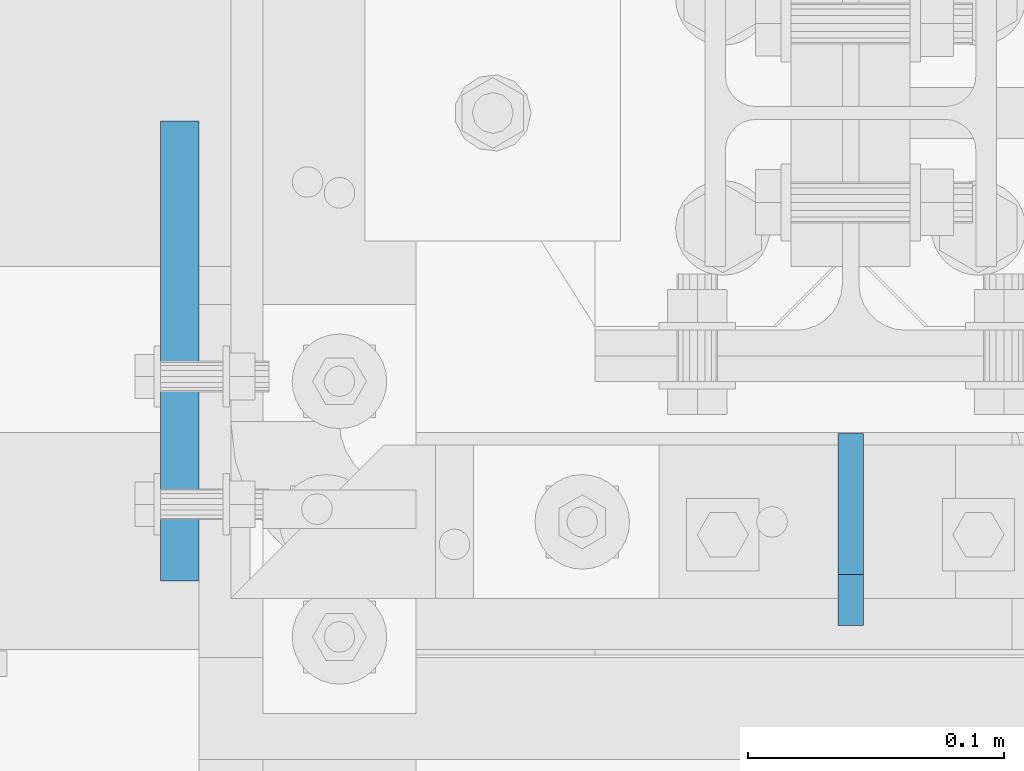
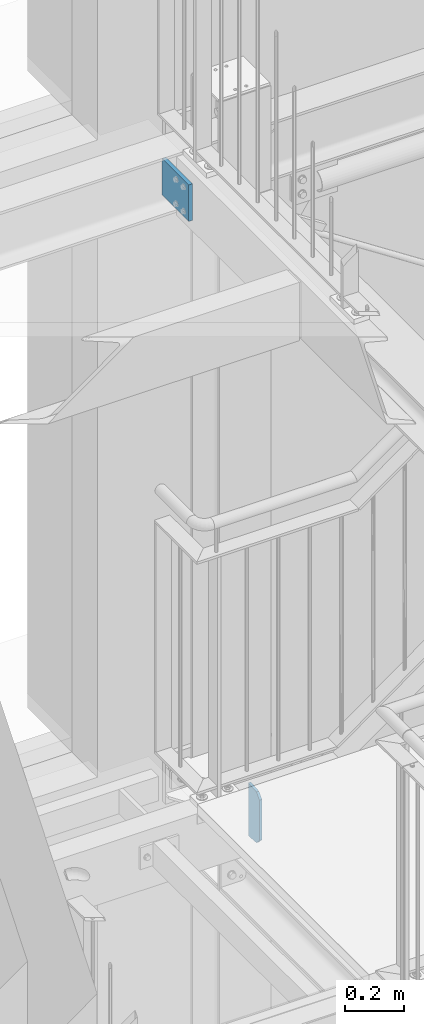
# One storey, part 188 of 821: 2 plates, 6 openings.
"""IFC2X3 building model written with IfcOpenShell, lengths in millimetres."""

from ifc_helpers import new_model, entity, si_unit, converted_unit, frame, frame_2d, origin, origin_with_axes, place, context, project, spatial, polyline, circle, outline, extrude, material, layer, layer_set, element, save


model = new_model("IFC2X3")

# Units and contexts
model_context = context("Model", 3, precision=1e-09, world=origin_with_axes())
ifc_project = project(units=[si_unit("LENGTHUNIT", "METRE", prefix="MILLI"), si_unit("AREAUNIT", "SQUARE_METRE"), si_unit("VOLUMEUNIT", "CUBIC_METRE"), converted_unit("PLANEANGLEUNIT", "DEGREE", entity("IfcPlaneAngleMeasure", 0.01745329), si_unit("PLANEANGLEUNIT", "RADIAN"), dimensions=[0, 0, 0, 0, 0, 0, 0])], contexts=[model_context])

# Site, building, storey
site_placement = place(None, origin_with_axes())
site = spatial("IfcSite", under=ifc_project, at=site_placement, Name="Cnopf'sche Kinderklinik", CompositionType="ELEMENT")
building_placement = place(site_placement, origin_with_axes())
building = spatial("IfcBuilding", under=site, at=building_placement, Name="Struktur 1", CompositionType="ELEMENT")
storey_placement = place(building_placement, origin_with_axes())
storey = spatial("IfcBuildingStorey", under=building, at=storey_placement, Name="Default Storey", CompositionType="ELEMENT", Elevation=0.0)

# Plate, openings
ifc_material = material(Name="S235JR")
ifc_layer_1 = layer(ifc_material, 10.0)
ifc_layer_set_1 = layer_set([ifc_layer_1], Name="S235JR")
plate_1_placement = place(None, frame((4861.713402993, 7316.236971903, 15196.855161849), z_axis=(-1.0, 0.0, 0.0), x_axis=(0.0, 0.996815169, 0.079746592)))
plate_1 = element("IfcPlate", 1, at=plate_1_placement, inside=storey, material=ifc_layer_set_1, Name="Stiffener#1", ObjectType="Stiffener#1", context=model_context, shape_type="SweptSolid", body=[
    extrude(outline(polyline([(0.0, 0.0), (75.239625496, 0.0), (57.877952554, 217.017159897), (-16.404697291, 205.05517107), (0.0, 0.0)])), origin_with_axes(), (0.0, 0.0, 1.0), 10.0),
])
opening_1_placement = place(plate_1_placement, frame((0.0, 0.0, -0.01), z_axis=(0.0, 0.0, 1.0), x_axis=(1.0, 0.0, 0.0)))
element("IfcOpeningElement", 2, at=opening_1_placement, cuts=plate_1, ObjectType="Opening", context=model_context, shape_type="SweptSolid", body=[
    extrude(outline(polyline([(-16.404697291, 205.05517107), (-14.809765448, 185.118867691), (3.34092195, 208.23487558), (-16.404697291, 205.05517107)])), origin(), (0.0, 0.0, 1.0), 10.02),
])
opening_2_placement = place(plate_1_placement, frame((0.0, 0.0, -0.01), z_axis=(0.0, 0.0, 1.0), x_axis=(1.0, 0.0, 0.0)))
element("IfcOpeningElement", 3, at=opening_2_placement, cuts=plate_1, ObjectType="Opening", context=model_context, shape_type="SweptSolid", body=[
    extrude(outline(polyline([(0.0, 0.0), (20.0, 0.0), (-1.594931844, 19.936303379), (0.0, 0.0)])), origin(), (0.0, 0.0, 1.0), 10.02),
])

ifc_layer_2 = layer(ifc_material, 15.0)
ifc_layer_set_2 = layer_set([ifc_layer_2], Name="S235JR")
plate_2_placement = place(None, frame((4601.713402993, 7423.636971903, 17714.000000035), z_axis=(-1.0, 0.0, 0.0), x_axis=(0.0, -1.0, 0.0)))
plate_2 = element("IfcPlate", 4, at=plate_2_placement, inside=storey, material=ifc_layer_set_2, Name="-", ObjectType="-", context=model_context, shape_type="SweptSolid", body=[
    extrude(outline(polyline([(-90.0, -75.0), (90.0, -75.0), (90.0, 75.0), (-90.0, 75.0), (-90.0, -75.0)])), origin_with_axes(), (0.0, 0.0, 1.0), 15.0),
])
opening_3_placement = place(plate_2_placement, frame((35.0, 1e-09, -0.5), z_axis=(0.0, 0.0, 1.0), x_axis=(1.0, 0.0, 0.0)))
element("IfcOpeningElement", 5, at=opening_3_placement, cuts=plate_2, ObjectType="Opening", context=model_context, shape_type="SweptSolid", body=[
    extrude(circle(Radius=7.001, at=frame_2d((25.0, 50.0), x_axis=(1.0, 0.0))), origin(), (0.0, 0.0, 1.0), 16.0),
])
opening_4_placement = place(plate_2_placement, frame((35.0, 1e-09, -0.5), z_axis=(0.0, 0.0, 1.0), x_axis=(1.0, 0.0, 0.0)))
element("IfcOpeningElement", 6, at=opening_4_placement, cuts=plate_2, ObjectType="Opening", context=model_context, shape_type="SweptSolid", body=[
    extrude(circle(Radius=7.001, at=frame_2d((-25.0, 50.0), x_axis=(1.0, 0.0))), origin(), (0.0, 0.0, 1.0), 16.0),
])
opening_5_placement = place(plate_2_placement, frame((35.0, 1e-09, -0.5), z_axis=(0.0, 0.0, 1.0), x_axis=(1.0, 0.0, 0.0)))
element("IfcOpeningElement", 7, at=opening_5_placement, cuts=plate_2, ObjectType="Opening", context=model_context, shape_type="SweptSolid", body=[
    extrude(circle(Radius=7.001, at=frame_2d((25.0, -50.0), x_axis=(1.0, 0.0))), origin(), (0.0, 0.0, 1.0), 16.0),
])
opening_6_placement = place(plate_2_placement, frame((35.0, 1e-09, -0.5), z_axis=(0.0, 0.0, 1.0), x_axis=(1.0, 0.0, 0.0)))
element("IfcOpeningElement", 8, at=opening_6_placement, cuts=plate_2, ObjectType="Opening", context=model_context, shape_type="SweptSolid", body=[
    extrude(circle(Radius=7.001, at=frame_2d((-25.0, -50.0), x_axis=(1.0, 0.0))), origin(), (0.0, 0.0, 1.0), 16.0),
])

save(model, "model.ifc")
